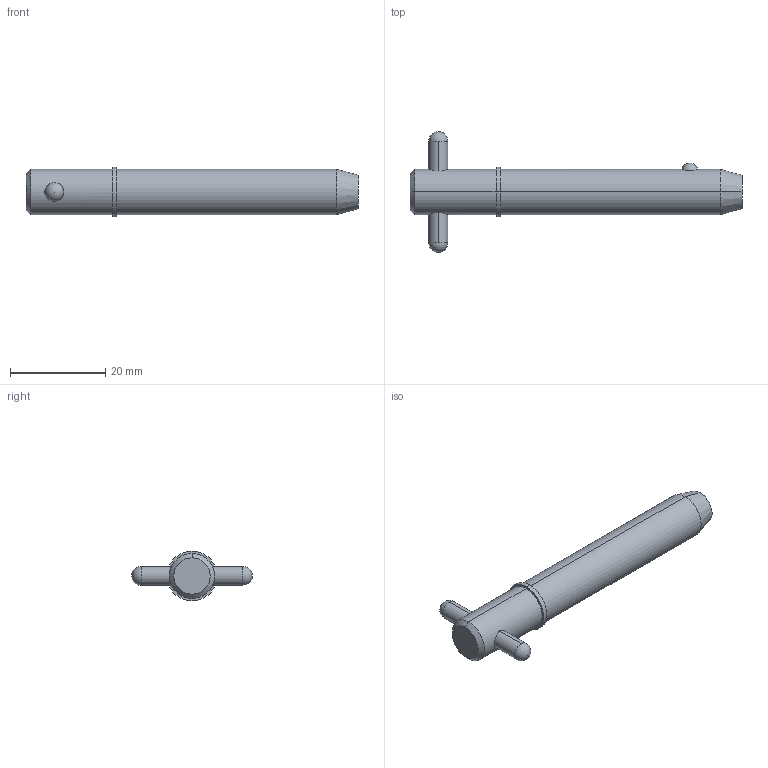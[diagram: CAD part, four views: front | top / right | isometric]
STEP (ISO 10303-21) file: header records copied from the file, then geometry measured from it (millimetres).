
FILE_DESCRIPTION (( 'STEP AP203' ), '1' );
FILE_NAME ('33018.W3715.step', '2024-11-19T17:10:57', ( '' ), ( '' ), 'SwSTEP 2.0', 'SolidWorks 2019', '' );
FILE_SCHEMA (( 'CONFIG_CONTROL_DESIGN' ));
Length unit declared in the file: millimetre
Products named in the file (3): Part1_33018.W3715; 33018.W3715; Part2_33018.W3715
Assembly tree (2 placements, depth 2):
  33018.W3715
    Part1_33018.W3715
    Part2_33018.W3715
Bounding box: 69.85 x 25.4 x 10.48 mm (x, y, z)
Volume: 5100.9 mm3; surface area: 2615.7 mm2
Topology: 2 solids, 2 shells, 22 faces, 47 edges, 30 vertices
Faces by surface type: cylinder 10, sphere 4, cone 4, plane 4
Entity records: 1023 total; most frequent: CARTESIAN_POINT 266, DIRECTION 110, ORIENTED_EDGE 82, AXIS2_PLACEMENT_3D 48, EDGE_CURVE 41, EDGE_LOOP 27, PERSON_AND_ORGANIZATION 26, VERTEX_POINT 26
